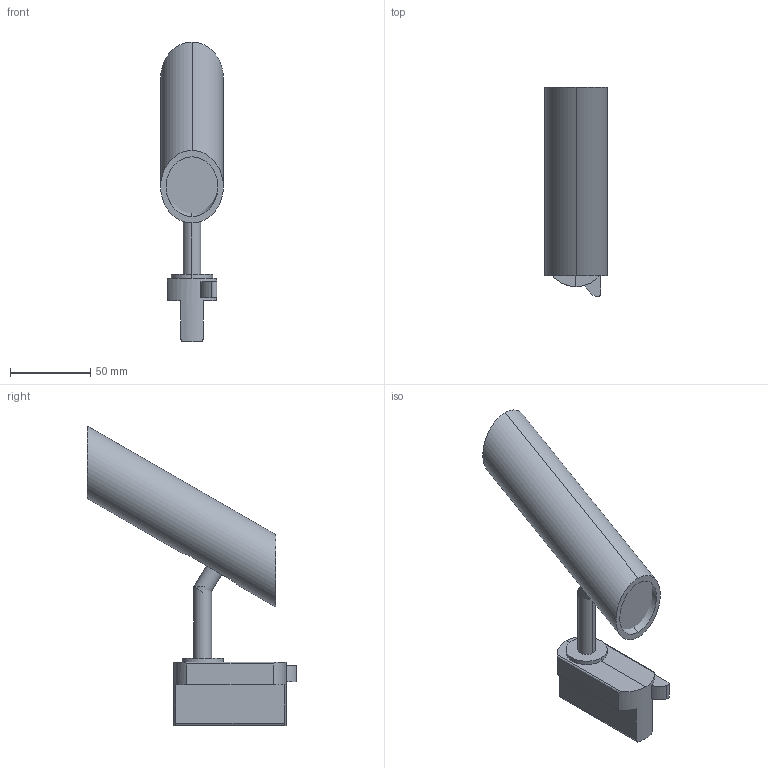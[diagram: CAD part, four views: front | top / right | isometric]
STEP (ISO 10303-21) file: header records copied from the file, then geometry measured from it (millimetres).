
FILE_DESCRIPTION(/* description */ (''),/* implementation_level */ '2;1');
FILE_NAME(/* name */ 'leo_track_projector - Vista 3D - {3D}.step',/* time_stamp */ '2024-12-10T09:27:35+01:00',/* author */ ('RenataManzini'),/* organization */ (''),/* preprocessor_version */ 'ST-DEVELOPER v20',/* originating_system */ 'AutoCAD Mechanical',/* authorisation */ '');
FILE_SCHEMA (('AUTOMOTIVE_DESIGN { 1 0 10303 214 3 1 1 }'));
Length unit declared in the file: millimetre
Products named in the file (2): Product; leo_track - STAN-463146-_3D_
Assembly tree (1 placements, depth 2):
  Product
    leo_track - STAN-463146-_3D_
Bounding box: 38.99 x 130.11 x 186.3 mm (x, y, z)
Volume: 189933.3 mm3; surface area: 47120.5 mm2
Topology: 8 solids, 8 shells, 67 faces, 132 edges, 85 vertices
Faces by surface type: plane 40, cylinder 23, bspline 4
Entity records: 2042 total; most frequent: CARTESIAN_POINT 614, DIRECTION 305, ORIENTED_EDGE 258, EDGE_CURVE 129, AXIS2_PLACEMENT_3D 121, VERTEX_POINT 80, EDGE_LOOP 69, FACE_OUTER_BOUND 67
